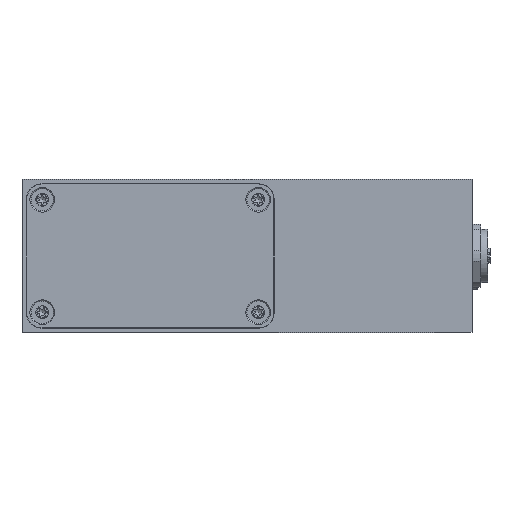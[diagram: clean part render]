
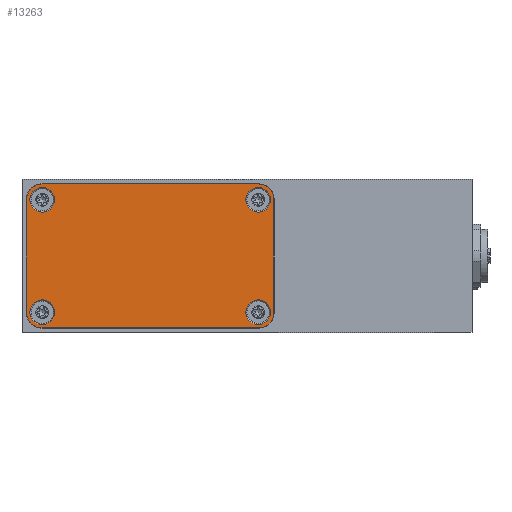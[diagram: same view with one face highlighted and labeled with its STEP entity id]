
A CAD part, front view. The second image highlights one B-rep face of the part: STEP entity #13263.
In plain terms, the highlighted planar face has unit normal (0, -1, 0).
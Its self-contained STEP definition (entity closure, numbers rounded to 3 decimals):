
#1718=FACE_BOUND($,#3717,.T.);
#1719=FACE_BOUND($,#3718,.T.);
#1720=FACE_BOUND($,#3719,.T.);
#1721=FACE_BOUND($,#3720,.T.);
#1722=FACE_BOUND($,#3721,.T.);
#1992=CIRCLE($,#13755,3.5);
#1993=CIRCLE($,#13758,3.5);
#1995=CIRCLE($,#13762,3.5);
#2195=CIRCLE($,#14305,2.75);
#2197=CIRCLE($,#14309,2.75);
#2199=CIRCLE($,#14313,2.75);
#2201=CIRCLE($,#14317,2.75);
#2203=CIRCLE($,#14322,3.5);
#3717=EDGE_LOOP($,(#11103));
#3718=EDGE_LOOP($,(#11104));
#3719=EDGE_LOOP($,(#11105));
#3720=EDGE_LOOP($,(#11106));
#3721=EDGE_LOOP($,(#11107,#11108,#11109,#11110,#11111,#11112,#11113,#11114));
#4265=LINE($,#18681,#5062);
#4269=LINE($,#18690,#5066);
#4272=LINE($,#18698,#5069);
#4712=LINE($,#29215,#5509);
#5062=VECTOR($,#15298,25.);
#5066=VECTOR($,#15308,48.);
#5069=VECTOR($,#15317,25.);
#5509=VECTOR($,#16879,48.);
#5943=VERTEX_POINT($,#18678);
#5944=VERTEX_POINT($,#18680);
#5945=VERTEX_POINT($,#18684);
#5946=VERTEX_POINT($,#18688);
#5947=VERTEX_POINT($,#18692);
#5948=VERTEX_POINT($,#18696);
#5950=VERTEX_POINT($,#18702);
#6618=VERTEX_POINT($,#29190);
#6620=VERTEX_POINT($,#29196);
#6622=VERTEX_POINT($,#29202);
#6624=VERTEX_POINT($,#29208);
#6626=VERTEX_POINT($,#29214);
#7252=EDGE_CURVE($,#5943,#5944,#4265,.T.);
#7255=EDGE_CURVE($,#5945,#5943,#1992,.T.);
#7257=EDGE_CURVE($,#5946,#5945,#4269,.T.);
#7259=EDGE_CURVE($,#5947,#5946,#1993,.T.);
#7261=EDGE_CURVE($,#5948,#5947,#4272,.T.);
#7264=EDGE_CURVE($,#5950,#5948,#1995,.T.);
#8234=EDGE_CURVE($,#6618,#6618,#2195,.T.);
#8236=EDGE_CURVE($,#6620,#6620,#2197,.T.);
#8238=EDGE_CURVE($,#6622,#6622,#2199,.T.);
#8240=EDGE_CURVE($,#6624,#6624,#2201,.T.);
#8242=EDGE_CURVE($,#6626,#5950,#4712,.T.);
#8245=EDGE_CURVE($,#5944,#6626,#2203,.T.);
#11103=ORIENTED_EDGE($,*,*,#8234,.T.);
#11104=ORIENTED_EDGE($,*,*,#8236,.T.);
#11105=ORIENTED_EDGE($,*,*,#8238,.T.);
#11106=ORIENTED_EDGE($,*,*,#8240,.T.);
#11107=ORIENTED_EDGE($,*,*,#8242,.F.);
#11108=ORIENTED_EDGE($,*,*,#8245,.F.);
#11109=ORIENTED_EDGE($,*,*,#7252,.F.);
#11110=ORIENTED_EDGE($,*,*,#7255,.F.);
#11111=ORIENTED_EDGE($,*,*,#7257,.F.);
#11112=ORIENTED_EDGE($,*,*,#7259,.F.);
#11113=ORIENTED_EDGE($,*,*,#7261,.F.);
#11114=ORIENTED_EDGE($,*,*,#7264,.F.);
#12689=PLANE($,#14324);
#13263=ADVANCED_FACE($,(#1718,#1719,#1720,#1721,#1722),#12689,.T.);
#13755=AXIS2_PLACEMENT_3D($,#18686,#15303,#15304);
#13758=AXIS2_PLACEMENT_3D($,#18694,#15312,#15313);
#13762=AXIS2_PLACEMENT_3D($,#18704,#15323,#15324);
#14305=AXIS2_PLACEMENT_3D($,#29191,#16847,#16848);
#14309=AXIS2_PLACEMENT_3D($,#29197,#16855,#16856);
#14313=AXIS2_PLACEMENT_3D($,#29203,#16863,#16864);
#14317=AXIS2_PLACEMENT_3D($,#29209,#16871,#16872);
#14322=AXIS2_PLACEMENT_3D($,#29220,#16884,#16885);
#14324=AXIS2_PLACEMENT_3D($,#29222,#16888,#16889);
#15298=DIRECTION($,(0.,0.,1.));
#15303=DIRECTION('center_axis',(0.,1.,0.));
#15304=DIRECTION('ref_axis',(1.,0.,0.));
#15308=DIRECTION($,(-1.,0.,0.));
#15312=DIRECTION('center_axis',(0.,1.,0.));
#15313=DIRECTION('ref_axis',(0.,0.,1.));
#15317=DIRECTION($,(0.,0.,-1.));
#15323=DIRECTION('center_axis',(0.,1.,0.));
#15324=DIRECTION('ref_axis',(-1.,0.,0.));
#16847=DIRECTION('center_axis',(0.,1.,0.));
#16848=DIRECTION('ref_axis',(1.,0.,0.));
#16855=DIRECTION('center_axis',(0.,1.,0.));
#16856=DIRECTION('ref_axis',(1.,0.,0.));
#16863=DIRECTION('center_axis',(0.,1.,0.));
#16864=DIRECTION('ref_axis',(1.,0.,0.));
#16871=DIRECTION('center_axis',(0.,1.,0.));
#16872=DIRECTION('ref_axis',(1.,0.,0.));
#16879=DIRECTION($,(1.,0.,0.));
#16884=DIRECTION('center_axis',(0.,1.,0.));
#16885=DIRECTION('ref_axis',(0.,0.,-1.));
#16888=DIRECTION('center_axis',(0.,-1.,0.));
#16889=DIRECTION('ref_axis',(1.,0.,0.));
#18678=CARTESIAN_POINT('',(-49.,-174.9,4.5));
#18680=CARTESIAN_POINT('',(-49.,-174.9,29.5));
#18681=CARTESIAN_POINT($,(-49.,-174.9,4.5));
#18684=CARTESIAN_POINT('',(-45.5,-174.9,1.));
#18686=CARTESIAN_POINT('Origin',(-45.5,-174.9,4.5));
#18688=CARTESIAN_POINT('',(2.5,-174.9,1.));
#18690=CARTESIAN_POINT($,(2.5,-174.9,1.));
#18692=CARTESIAN_POINT('',(6.,-174.9,4.5));
#18694=CARTESIAN_POINT('Origin',(2.5,-174.9,4.5));
#18696=CARTESIAN_POINT('',(6.,-174.9,29.5));
#18698=CARTESIAN_POINT($,(6.,-174.9,29.5));
#18702=CARTESIAN_POINT('',(2.5,-174.9,33.));
#18704=CARTESIAN_POINT('Origin',(2.5,-174.9,29.5));
#29190=CARTESIAN_POINT('',(5.25,-174.9,4.5));
#29191=CARTESIAN_POINT('Origin',(2.5,-174.9,4.5));
#29196=CARTESIAN_POINT('',(-42.75,-174.9,29.5));
#29197=CARTESIAN_POINT('Origin',(-45.5,-174.9,29.5));
#29202=CARTESIAN_POINT('',(-42.75,-174.9,4.5));
#29203=CARTESIAN_POINT('Origin',(-45.5,-174.9,4.5));
#29208=CARTESIAN_POINT('',(5.25,-174.9,29.5));
#29209=CARTESIAN_POINT('Origin',(2.5,-174.9,29.5));
#29214=CARTESIAN_POINT('',(-45.5,-174.9,33.));
#29215=CARTESIAN_POINT($,(-45.5,-174.9,33.));
#29220=CARTESIAN_POINT('Origin',(-45.5,-174.9,29.5));
#29222=CARTESIAN_POINT('Origin',(-21.5,-174.9,17.));
